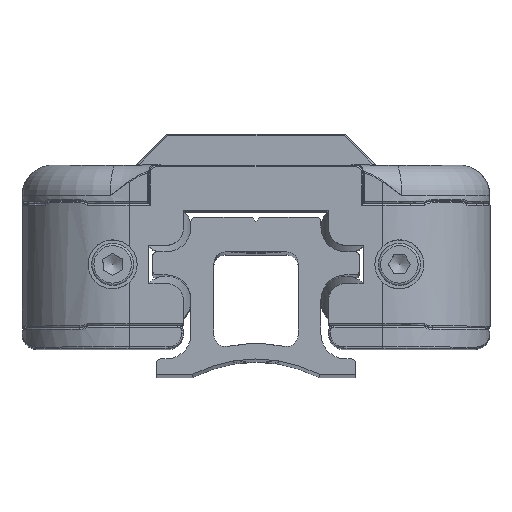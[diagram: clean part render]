
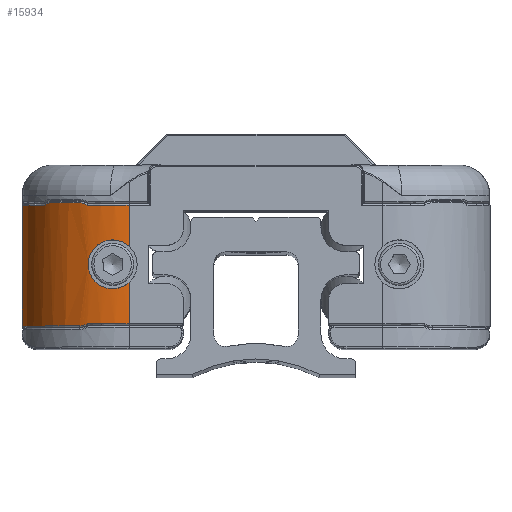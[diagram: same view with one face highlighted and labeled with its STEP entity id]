
A CAD part, top view. The second image highlights one B-rep face of the part: STEP entity #15934.
In plain terms, the highlighted cylindrical face has radius 14 mm (diameter 28 mm), a partial arc.
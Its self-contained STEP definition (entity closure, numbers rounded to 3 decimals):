
#478=CYLINDRICAL_SURFACE('',#17509,14.);
#1143=CIRCLE('',#17403,14.);
#1150=CIRCLE('',#17413,14.);
#1157=CIRCLE('',#17424,14.);
#1168=CIRCLE('',#17445,14.);
#1171=CIRCLE('',#17450,14.);
#1774=B_SPLINE_CURVE_WITH_KNOTS('',3,(#28673,#28674,#28675,#28676),
 .UNSPECIFIED.,.F.,.F.,(4,4),(1.093,1.208),
 .UNSPECIFIED.);
#1782=B_SPLINE_CURVE_WITH_KNOTS('',3,(#28899,#28900,#28901,#28902),
 .UNSPECIFIED.,.F.,.F.,(4,4),(0.53,0.633),
 .UNSPECIFIED.);
#1785=B_SPLINE_CURVE_WITH_KNOTS('',3,(#28945,#28946,#28947,#28948),
 .UNSPECIFIED.,.F.,.F.,(4,4),(2.417,2.533),
 .UNSPECIFIED.);
#1796=B_SPLINE_CURVE_WITH_KNOTS('',3,(#29326,#29327,#29328,#29329,#29330,
#29331,#29332,#29333,#29334,#29335,#29336,#29337,#29338,#29339,#29340,#29341,
#29342,#29343,#29344,#29345,#29346,#29347,#29348,#29349,#29350,#29351),
 .UNSPECIFIED.,.F.,.F.,(4,2,2,2,2,2,2,2,2,2,2,2,4),(0.257,0.362,
0.483,0.608,0.732,0.853,
0.974,1.095,1.217,1.341,1.465,
1.586,1.692),.UNSPECIFIED.);
#2676=FACE_OUTER_BOUND('',#3641,.T.);
#3641=EDGE_LOOP('',(#13135,#13136,#13137,#13138,#13139,#13140,#13141,#13142,
#13143,#13144,#13145,#13146));
#4775=LINE('',#29386,#5844);
#4776=LINE('',#29387,#5845);
#4777=LINE('',#29388,#5846);
#5844=VECTOR('',#21231,10.);
#5845=VECTOR('',#21232,10.);
#5846=VECTOR('',#21233,10.);
#7204=VERTEX_POINT('',#28620);
#7205=VERTEX_POINT('',#28624);
#7208=VERTEX_POINT('',#28672);
#7210=VERTEX_POINT('',#28684);
#7218=VERTEX_POINT('',#28775);
#7221=VERTEX_POINT('',#28783);
#7227=VERTEX_POINT('',#28898);
#7230=VERTEX_POINT('',#28912);
#7232=VERTEX_POINT('',#28944);
#7234=VERTEX_POINT('',#28994);
#7253=VERTEX_POINT('',#29323);
#7254=VERTEX_POINT('',#29324);
#9225=EDGE_CURVE('',#7204,#7205,#1143,.T.);
#9230=EDGE_CURVE('',#7205,#7208,#1774,.T.);
#9235=EDGE_CURVE('',#7208,#7210,#1150,.T.);
#9249=EDGE_CURVE('',#7218,#7221,#1157,.T.);
#9269=EDGE_CURVE('',#7221,#7227,#1782,.T.);
#9275=EDGE_CURVE('',#7227,#7230,#1168,.T.);
#9277=EDGE_CURVE('',#7230,#7232,#1785,.T.);
#9282=EDGE_CURVE('',#7232,#7234,#1171,.T.);
#9344=EDGE_CURVE('',#7254,#7253,#1796,.T.);
#9348=EDGE_CURVE('',#7204,#7254,#4775,.T.);
#9349=EDGE_CURVE('',#7253,#7234,#4776,.T.);
#9350=EDGE_CURVE('',#7218,#7210,#4777,.T.);
#13135=ORIENTED_EDGE('',*,*,#9225,.F.);
#13136=ORIENTED_EDGE('',*,*,#9348,.T.);
#13137=ORIENTED_EDGE('',*,*,#9344,.T.);
#13138=ORIENTED_EDGE('',*,*,#9349,.T.);
#13139=ORIENTED_EDGE('',*,*,#9282,.F.);
#13140=ORIENTED_EDGE('',*,*,#9277,.F.);
#13141=ORIENTED_EDGE('',*,*,#9275,.F.);
#13142=ORIENTED_EDGE('',*,*,#9269,.F.);
#13143=ORIENTED_EDGE('',*,*,#9249,.F.);
#13144=ORIENTED_EDGE('',*,*,#9350,.T.);
#13145=ORIENTED_EDGE('',*,*,#9235,.F.);
#13146=ORIENTED_EDGE('',*,*,#9230,.F.);
#15934=ADVANCED_FACE('',(#2676),#478,.T.);
#17403=AXIS2_PLACEMENT_3D('',#28625,#20974,#20975);
#17413=AXIS2_PLACEMENT_3D('',#28688,#20994,#20995);
#17424=AXIS2_PLACEMENT_3D('',#28784,#21020,#21021);
#17445=AXIS2_PLACEMENT_3D('',#28916,#21070,#21071);
#17450=AXIS2_PLACEMENT_3D('',#28995,#21081,#21082);
#17509=AXIS2_PLACEMENT_3D('',#29385,#21229,#21230);
#20974=DIRECTION('center_axis',(0.,-1.,0.));
#20975=DIRECTION('ref_axis',(-0.195,0.,0.981));
#20994=DIRECTION('center_axis',(0.,-1.,0.));
#20995=DIRECTION('ref_axis',(-0.854,0.,0.521));
#21020=DIRECTION('center_axis',(0.,1.,0.));
#21021=DIRECTION('ref_axis',(-0.943,0.,0.332));
#21070=DIRECTION('center_axis',(0.,1.,0.));
#21071=DIRECTION('ref_axis',(-0.602,0.,0.799));
#21081=DIRECTION('center_axis',(0.,1.,0.));
#21082=DIRECTION('ref_axis',(-0.195,0.,0.981));
#21229=DIRECTION('center_axis',(0.,1.,0.));
#21230=DIRECTION('ref_axis',(-1.,0.,0.));
#21231=DIRECTION('',(0.,1.,0.));
#21232=DIRECTION('',(0.,1.,0.));
#21233=DIRECTION('',(0.,-1.,0.));
#28620=CARTESIAN_POINT('',(-16.6,6.75,49.1));
#28624=CARTESIAN_POINT('',(-22.083,6.75,47.981));
#28625=CARTESIAN_POINT('Origin',(-16.6,6.75,35.1));
#28672=CARTESIAN_POINT('',(-23.093,6.45,47.503));
#28673=CARTESIAN_POINT('Ctrl Pts',(-22.083,6.75,47.981));
#28674=CARTESIAN_POINT('Ctrl Pts',(-22.39,6.549,47.851));
#28675=CARTESIAN_POINT('Ctrl Pts',(-22.747,6.45,47.685));
#28676=CARTESIAN_POINT('Ctrl Pts',(-23.093,6.45,47.503));
#28684=CARTESIAN_POINT('',(-30.6,6.45,35.1));
#28688=CARTESIAN_POINT('Origin',(-16.6,6.45,35.1));
#28775=CARTESIAN_POINT('',(-30.6,22.25,35.1));
#28783=CARTESIAN_POINT('',(-27.581,22.25,43.784));
#28784=CARTESIAN_POINT('Origin',(-16.6,22.25,35.1));
#28898=CARTESIAN_POINT('',(-26.948,22.55,44.53));
#28899=CARTESIAN_POINT('Ctrl Pts',(-27.581,22.25,43.784));
#28900=CARTESIAN_POINT('Ctrl Pts',(-27.411,22.46,43.999));
#28901=CARTESIAN_POINT('Ctrl Pts',(-27.182,22.55,44.273));
#28902=CARTESIAN_POINT('Ctrl Pts',(-26.948,22.55,44.53));
#28912=CARTESIAN_POINT('',(-23.093,22.55,47.503));
#28916=CARTESIAN_POINT('Origin',(-16.6,22.55,35.1));
#28944=CARTESIAN_POINT('',(-22.083,22.25,47.981));
#28945=CARTESIAN_POINT('Ctrl Pts',(-23.093,22.55,47.503));
#28946=CARTESIAN_POINT('Ctrl Pts',(-22.747,22.55,47.685));
#28947=CARTESIAN_POINT('Ctrl Pts',(-22.39,22.451,47.851));
#28948=CARTESIAN_POINT('Ctrl Pts',(-22.083,22.25,47.981));
#28994=CARTESIAN_POINT('',(-16.6,22.25,49.1));
#28995=CARTESIAN_POINT('Origin',(-16.6,22.25,35.1));
#29323=CARTESIAN_POINT('',(-16.6,16.87,49.1));
#29324=CARTESIAN_POINT('',(-16.6,12.13,49.1));
#29326=CARTESIAN_POINT('Ctrl Pts',(-16.6,12.13,49.1));
#29327=CARTESIAN_POINT('Ctrl Pts',(-16.865,11.889,49.1));
#29328=CARTESIAN_POINT('Ctrl Pts',(-17.185,11.684,49.092));
#29329=CARTESIAN_POINT('Ctrl Pts',(-17.925,11.379,49.043));
#29330=CARTESIAN_POINT('Ctrl Pts',(-18.352,11.3,48.996));
#29331=CARTESIAN_POINT('Ctrl Pts',(-19.16,11.3,48.87));
#29332=CARTESIAN_POINT('Ctrl Pts',(-19.592,11.383,48.783));
#29333=CARTESIAN_POINT('Ctrl Pts',(-20.384,11.715,48.585));
#29334=CARTESIAN_POINT('Ctrl Pts',(-20.743,11.964,48.476));
#29335=CARTESIAN_POINT('Ctrl Pts',(-21.303,12.531,48.29));
#29336=CARTESIAN_POINT('Ctrl Pts',(-21.545,12.885,48.199));
#29337=CARTESIAN_POINT('Ctrl Pts',(-21.869,13.668,48.072));
#29338=CARTESIAN_POINT('Ctrl Pts',(-21.95,14.096,48.037));
#29339=CARTESIAN_POINT('Ctrl Pts',(-21.95,14.904,48.037));
#29340=CARTESIAN_POINT('Ctrl Pts',(-21.869,15.332,48.072));
#29341=CARTESIAN_POINT('Ctrl Pts',(-21.545,16.115,48.199));
#29342=CARTESIAN_POINT('Ctrl Pts',(-21.303,16.469,48.29));
#29343=CARTESIAN_POINT('Ctrl Pts',(-20.743,17.036,48.476));
#29344=CARTESIAN_POINT('Ctrl Pts',(-20.384,17.285,48.585));
#29345=CARTESIAN_POINT('Ctrl Pts',(-19.592,17.617,48.783));
#29346=CARTESIAN_POINT('Ctrl Pts',(-19.16,17.7,48.87));
#29347=CARTESIAN_POINT('Ctrl Pts',(-18.352,17.7,48.996));
#29348=CARTESIAN_POINT('Ctrl Pts',(-17.925,17.621,49.043));
#29349=CARTESIAN_POINT('Ctrl Pts',(-17.185,17.316,49.092));
#29350=CARTESIAN_POINT('Ctrl Pts',(-16.865,17.111,49.1));
#29351=CARTESIAN_POINT('Ctrl Pts',(-16.6,16.87,49.1));
#29385=CARTESIAN_POINT('Origin',(-16.6,22.5,35.1));
#29386=CARTESIAN_POINT('',(-16.6,22.5,49.1));
#29387=CARTESIAN_POINT('',(-16.6,22.5,49.1));
#29388=CARTESIAN_POINT('',(-30.6,22.5,35.1));
